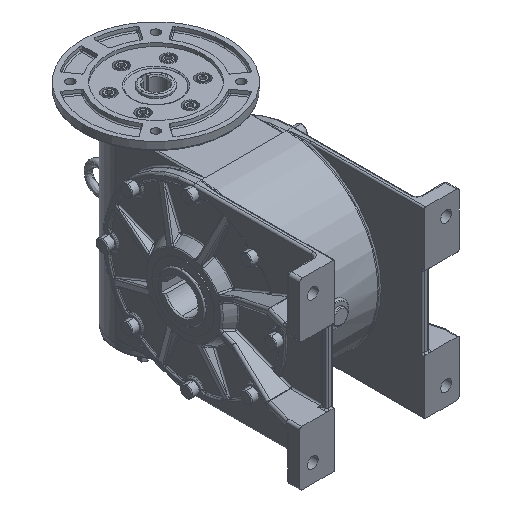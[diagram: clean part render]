
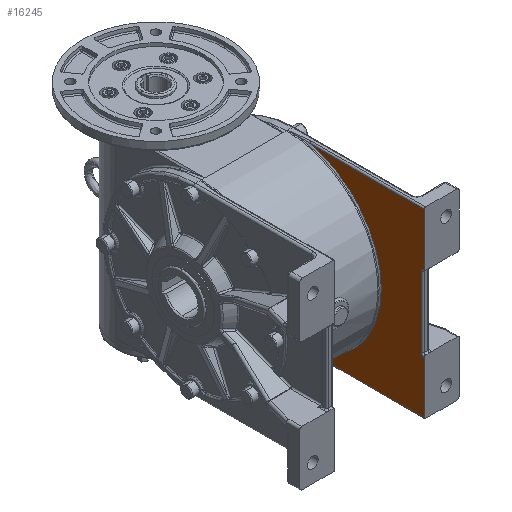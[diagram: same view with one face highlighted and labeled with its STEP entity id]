
A CAD part, isometric view. The second image highlights one B-rep face of the part: STEP entity #16245.
In plain terms, the highlighted planar face has unit normal (-1, 0, 0) as drawn and (0, 0, 1) by its records, which use the part's own axes.
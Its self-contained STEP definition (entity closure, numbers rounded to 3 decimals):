
#16091 = EDGE_CURVE ( 'NONE', #16160, #16178, #23355, .T. ) ;
#16158 = EDGE_CURVE ( 'NONE', #16159, #16160, #23872, .T. ) ;
#16159 = VERTEX_POINT ( 'NONE', #23865 ) ;
#16160 = VERTEX_POINT ( 'NONE', #23863 ) ;
#16161 = ORIENTED_EDGE ( 'NONE', *, *, #16162, .T. ) ;
#16162 = EDGE_CURVE ( 'NONE', #16159, #16163, #23719, .T. ) ;
#16163 = VERTEX_POINT ( 'NONE', #23712 ) ;
#16164 = ORIENTED_EDGE ( 'NONE', *, *, #16165, .T. ) ;
#16165 = EDGE_CURVE ( 'NONE', #16163, #16166, #23706, .T. ) ;
#16166 = VERTEX_POINT ( 'NONE', #23697 ) ;
#16167 = ORIENTED_EDGE ( 'NONE', *, *, #16168, .T. ) ;
#16168 = EDGE_CURVE ( 'NONE', #16166, #16169, #23690, .T. ) ;
#16169 = VERTEX_POINT ( 'NONE', #23963 ) ;
#16170 = ORIENTED_EDGE ( 'NONE', *, *, #16171, .F. ) ;
#16171 = EDGE_CURVE ( 'NONE', #16172, #16169, #23962, .T. ) ;
#16172 = VERTEX_POINT ( 'NONE', #23958 ) ;
#16173 = ORIENTED_EDGE ( 'NONE', *, *, #16174, .F. ) ;
#16174 = EDGE_CURVE ( 'NONE', #16175, #16172, #23957, .T. ) ;
#16175 = VERTEX_POINT ( 'NONE', #23951 ) ;
#16176 = ORIENTED_EDGE ( 'NONE', *, *, #16177, .T. ) ;
#16177 = EDGE_CURVE ( 'NONE', #16175, #16178, #23950, .T. ) ;
#16178 = VERTEX_POINT ( 'NONE', #23431 ) ;
#16179 = ORIENTED_EDGE ( 'NONE', *, *, #16091, .F. ) ;
#16245 = ADVANCED_FACE ( 'NONE', ( #24033 ), #24032, .F. ) ;
#16246 = EDGE_LOOP ( 'NONE', ( #16247, #16161, #16164, #16167, #16170, #16173, #16176, #16179 ) ) ;
#16247 = ORIENTED_EDGE ( 'NONE', *, *, #16158, .F. ) ;
#23348 = DIRECTION ( 'NONE',  ( -1., 0., 0. ) ) ;
#23350 = DIRECTION ( 'NONE',  ( 0., 0., 1. ) ) ;
#23352 = CARTESIAN_POINT ( 'NONE',  ( 48., -185., -3. ) ) ;
#23354 = AXIS2_PLACEMENT_3D ( 'NONE', #23352, #23350, #23348 ) ;
#23355 = CIRCLE ( 'NONE', #23354, 4. ) ;
#23431 = CARTESIAN_POINT ( 'NONE',  ( 48., -181., -3. ) ) ;
#23433 = DIRECTION ( 'NONE',  ( 1., 0., 0. ) ) ;
#23435 = VECTOR ( 'NONE', #23433, 1000. ) ;
#23685 = DIRECTION ( 'NONE',  ( 0., -1., 0. ) ) ;
#23686 = VECTOR ( 'NONE', #23685, 1000. ) ;
#23688 = CARTESIAN_POINT ( 'NONE',  ( -123., -185., -3. ) ) ;
#23690 = LINE ( 'NONE', #23688, #23686 ) ;
#23697 = CARTESIAN_POINT ( 'NONE',  ( -123., -29.551, -3. ) ) ;
#23699 = DIRECTION ( 'NONE',  ( -1., 0., 0. ) ) ;
#23701 = DIRECTION ( 'NONE',  ( 0., 0., -1. ) ) ;
#23702 = CARTESIAN_POINT ( 'NONE',  ( 0., 0., -3. ) ) ;
#23704 = AXIS2_PLACEMENT_3D ( 'NONE', #23702, #23701, #23699 ) ;
#23706 = CIRCLE ( 'NONE', #23704, 126.5 ) ;
#23712 = CARTESIAN_POINT ( 'NONE',  ( 123., -29.551, -3. ) ) ;
#23714 = DIRECTION ( 'NONE',  ( 0., 1., 0. ) ) ;
#23716 = VECTOR ( 'NONE', #23714, 1000. ) ;
#23717 = CARTESIAN_POINT ( 'NONE',  ( 123., -19.423, -3. ) ) ;
#23719 = LINE ( 'NONE', #23717, #23716 ) ;
#23863 = CARTESIAN_POINT ( 'NONE',  ( 52., -185., -3. ) ) ;
#23865 = CARTESIAN_POINT ( 'NONE',  ( 123., -185., -3. ) ) ;
#23867 = DIRECTION ( 'NONE',  ( -1., 0., 0. ) ) ;
#23868 = VECTOR ( 'NONE', #23867, 1000. ) ;
#23870 = CARTESIAN_POINT ( 'NONE',  ( 125., -185., -3. ) ) ;
#23872 = LINE ( 'NONE', #23870, #23868 ) ;
#23948 = CARTESIAN_POINT ( 'NONE',  ( 50., -181., -3. ) ) ;
#23950 = LINE ( 'NONE', #23948, #23435 ) ;
#23951 = CARTESIAN_POINT ( 'NONE',  ( -48., -181., -3. ) ) ;
#23952 = DIRECTION ( 'NONE',  ( -1., 0., 0. ) ) ;
#23953 = DIRECTION ( 'NONE',  ( 0., 0., 1. ) ) ;
#23954 = CARTESIAN_POINT ( 'NONE',  ( -48., -185., -3. ) ) ;
#23956 = AXIS2_PLACEMENT_3D ( 'NONE', #23954, #23953, #23952 ) ;
#23957 = CIRCLE ( 'NONE', #23956, 4. ) ;
#23958 = CARTESIAN_POINT ( 'NONE',  ( -52., -185., -3. ) ) ;
#23959 = DIRECTION ( 'NONE',  ( -1., 0., 0. ) ) ;
#23960 = VECTOR ( 'NONE', #23959, 1000. ) ;
#23961 = CARTESIAN_POINT ( 'NONE',  ( -50., -185., -3. ) ) ;
#23962 = LINE ( 'NONE', #23961, #23960 ) ;
#23963 = CARTESIAN_POINT ( 'NONE',  ( -123., -185., -3. ) ) ;
#24028 = DIRECTION ( 'NONE',  ( -1., 0., 0. ) ) ;
#24029 = DIRECTION ( 'NONE',  ( 0., 0., -1. ) ) ;
#24030 = CARTESIAN_POINT ( 'NONE',  ( 0., 0., -3. ) ) ;
#24031 = AXIS2_PLACEMENT_3D ( 'NONE', #24030, #24029, #24028 ) ;
#24032 = PLANE ( 'NONE',  #24031 ) ;
#24033 = FACE_OUTER_BOUND ( 'NONE', #16246, .T. ) ;
